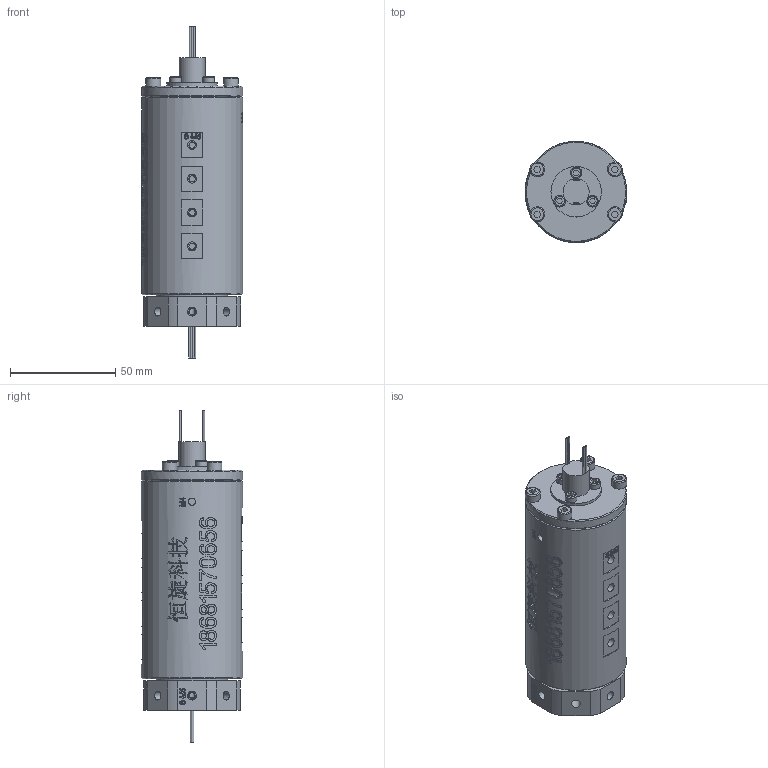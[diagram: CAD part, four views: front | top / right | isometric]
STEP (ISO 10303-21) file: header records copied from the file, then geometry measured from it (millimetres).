
FILE_DESCRIPTION(/* description */ (''),/* implementation_level */ '2;1');
FILE_NAME(/* name */ 'HQ08005-06M-3D模型.stp',/* time_stamp */ '2025-09-01T17:53:08+08:00',/* author */ (''),/* organization */ (''),/* preprocessor_version */ 'ST-DEVELOPER v16.7',/* originating_system */ 'SIEMENS PLM Software NX 12.0',/* authorisation */ '');
FILE_SCHEMA (('AUTOMOTIVE_DESIGN { 1 0 10303 214 3 1 1 1 }'));
Length unit declared in the file: millimetre
Products named in the file (1): AdmiB44865CDwe14
Bounding box: 48.13 x 48 x 157.5 mm (x, y, z)
Volume: 204273.9 mm3; surface area: 28987.6 mm2
Topology: 1 solids, 4 shells, 1134 faces, 2982 edges, 1979 vertices
Faces by surface type: plane 528, extrusion 417, cylinder 135, bspline 38, cone 9, torus 7
Full cylindrical faces by diameter (mm): 0.8 x12, 3 x27, 3.4 x9, 4.1 x8, 4.2 x24, 5.5 x3, 6 x1, 7 x4, 12.4 x1, 23.9 x1, 34 x1, 42 x1, 48 x2
Entity records: 41485 total; most frequent: CARTESIAN_POINT 17636, ORIENTED_EDGE 5574, DIRECTION 3199, EDGE_CURVE 2787, B_SPLINE_CURVE_WITH_KNOTS 2200, VERTEX_POINT 1904, EDGE_LOOP 1387, ADVANCED_FACE 1130
